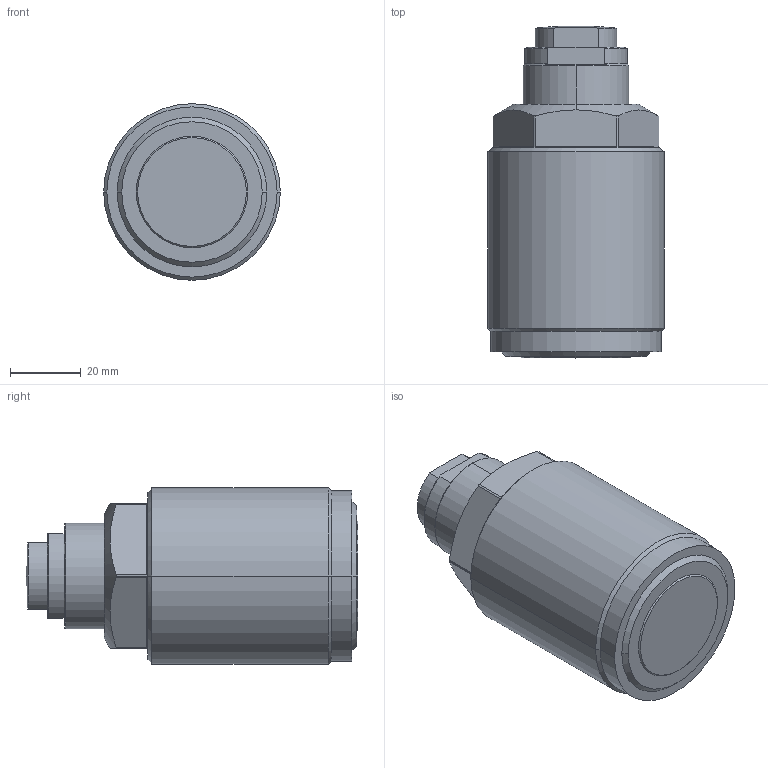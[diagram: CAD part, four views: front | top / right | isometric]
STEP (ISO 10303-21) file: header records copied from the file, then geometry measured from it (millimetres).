
FILE_DESCRIPTION(/* description */ (''),/* implementation_level */ '2;1');
FILE_NAME(/* name */ 'PGSS16-L.stp',/* time_stamp */ '2025-01-05T11:02:40+08:00',/* author */ (''),/* organization */ (''),/* preprocessor_version */ 'ST-DEVELOPER v16.7',/* originating_system */ 'SIEMENS PLM Software NX 12.0',/* authorisation */ '');
FILE_SCHEMA (('AUTOMOTIVE_DESIGN { 1 0 10303 214 3 1 1 1 }'));
Length unit declared in the file: millimetre
Products named in the file (4): PGSS16-L-03; PGSS16-L-02; PGSS16-L-01; CSV16M-L_step
Assembly tree (3 placements, depth 2):
  CSV16M-L_step
    PGSS16-L-01
    PGSS16-L-02
    PGSS16-L-03
Bounding box: 50 x 94 x 50 mm (x, y, z)
Volume: 136696.9 mm3; surface area: 20386.8 mm2
Topology: 3 solids, 3 shells, 91 faces, 216 edges, 138 vertices
Faces by surface type: cylinder 35, plane 30, cone 20, torus 4, sphere 2
Entity records: 3011 total; most frequent: CARTESIAN_POINT 793, DIRECTION 467, ORIENTED_EDGE 432, EDGE_CURVE 216, AXIS2_PLACEMENT_3D 196, VERTEX_POINT 138, CIRCLE 101, EDGE_LOOP 100
